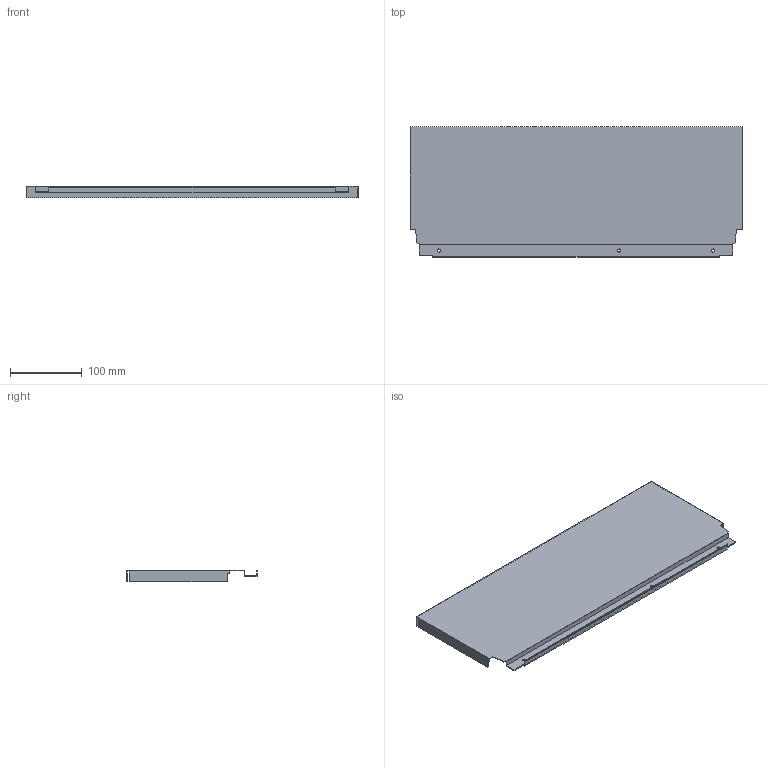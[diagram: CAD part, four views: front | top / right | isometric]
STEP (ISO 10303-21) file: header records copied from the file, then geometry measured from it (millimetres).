
FILE_DESCRIPTION (( 'STEP AP214' ), '1' );
FILE_NAME ('_DWD_XP Stahlrückwand_H182_KAB550_S18.step', '2010-07-08T12:57:55', ( 'grass' ), ( '' ), 'SwSTEP 2.0', 'SolidWorks 2010', '' );
FILE_SCHEMA (( 'AUTOMOTIVE_DESIGN' ));
Length unit declared in the file: millimetre
Products named in the file (1): _DWD_XP Stahlrückwand_H182_KAB550_S18
Bounding box: 463 x 182.49 x 16 mm (x, y, z)
Volume: 87504.4 mm3; surface area: 203267.7 mm2
Topology: 1 solids, 1 shells, 46 faces, 132 edges, 88 vertices
Faces by surface type: plane 40, cylinder 6
Entity records: 1534 total; most frequent: CARTESIAN_POINT 267, ORIENTED_EDGE 264, DIRECTION 238, EDGE_CURVE 132, VECTOR 120, LINE 120, VERTEX_POINT 88, AXIS2_PLACEMENT_3D 59
